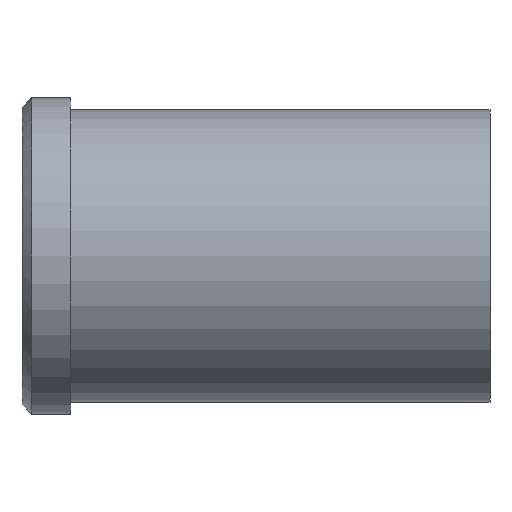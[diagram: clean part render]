
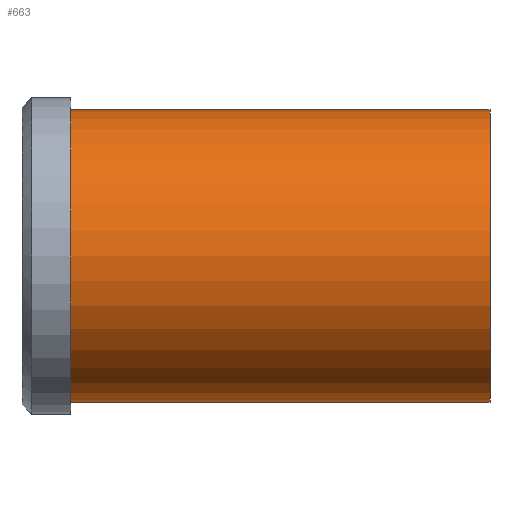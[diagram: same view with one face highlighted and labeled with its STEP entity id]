
A CAD part, front view. The second image highlights one B-rep face of the part: STEP entity #663.
In plain terms, the highlighted cylindrical face has radius 30 mm (diameter 60 mm), a partial arc.
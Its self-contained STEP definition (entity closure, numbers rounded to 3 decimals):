
#501=CARTESIAN_POINT('Vertex',(0.,0.,-30.)) ;
#506=CARTESIAN_POINT('Axis2P3D Location',(0.,0.,0.)) ;
#510=CARTESIAN_POINT('Vertex',(0.,-30.,0.)) ;
#513=CARTESIAN_POINT('Axis2P3D Location',(0.,0.,0.)) ;
#517=CARTESIAN_POINT('Vertex',(0.,0.,30.)) ;
#603=CARTESIAN_POINT('Line Origine',(86.,0.,30.)) ;
#607=CARTESIAN_POINT('Vertex',(86.,0.,30.)) ;
#621=CARTESIAN_POINT('Vertex',(86.,0.,-30.)) ;
#624=CARTESIAN_POINT('Line Origine',(86.,0.,-30.)) ;
#638=CARTESIAN_POINT('Axis2P3D Location',(86.,0.,0.)) ;
#643=CARTESIAN_POINT('Axis2P3D Location',(86.,0.,0.)) ;
#647=CARTESIAN_POINT('Vertex',(86.,-30.,0.)) ;
#650=CARTESIAN_POINT('Axis2P3D Location',(86.,0.,0.)) ;
#507=DIRECTION('Axis2P3D Direction',(1.,0.,-0.)) ;
#514=DIRECTION('Axis2P3D Direction',(1.,0.,-0.)) ;
#604=DIRECTION('Vector Direction',(-1.,0.,0.)) ;
#625=DIRECTION('Vector Direction',(-1.,0.,0.)) ;
#639=DIRECTION('Axis2P3D Direction',(-1.,-0.,-0.)) ;
#640=DIRECTION('Axis2P3D XDirection',(0.,0.,-1.)) ;
#644=DIRECTION('Axis2P3D Direction',(-1.,-0.,-0.)) ;
#651=DIRECTION('Axis2P3D Direction',(-1.,-0.,-0.)) ;
#508=AXIS2_PLACEMENT_3D('Circle Axis2P3D',#506,#507,$) ;
#515=AXIS2_PLACEMENT_3D('Circle Axis2P3D',#513,#514,$) ;
#641=AXIS2_PLACEMENT_3D('Cylinder Axis2P3D',#638,#639,#640) ;
#645=AXIS2_PLACEMENT_3D('Circle Axis2P3D',#643,#644,$) ;
#652=AXIS2_PLACEMENT_3D('Circle Axis2P3D',#650,#651,$) ;
#656=ORIENTED_EDGE('',*,*,#628,.T.) ;
#657=ORIENTED_EDGE('',*,*,#649,.F.) ;
#658=ORIENTED_EDGE('',*,*,#654,.F.) ;
#659=ORIENTED_EDGE('',*,*,#609,.T.) ;
#660=ORIENTED_EDGE('',*,*,#519,.T.) ;
#661=ORIENTED_EDGE('',*,*,#512,.T.) ;
#605=VECTOR('Line Direction',#604,1.) ;
#626=VECTOR('Line Direction',#625,1.) ;
#663=ADVANCED_FACE('353-50X96',(#662),#642,.T.) ;
#509=CIRCLE('generated circle',#508,30.) ;
#516=CIRCLE('generated circle',#515,30.) ;
#646=CIRCLE('generated circle',#645,30.) ;
#653=CIRCLE('generated circle',#652,30.) ;
#642=CYLINDRICAL_SURFACE('generated cylinder',#641,30.) ;
#512=EDGE_CURVE('',#511,#502,#509,.T.) ;
#519=EDGE_CURVE('',#518,#511,#516,.T.) ;
#609=EDGE_CURVE('',#608,#518,#606,.T.) ;
#628=EDGE_CURVE('',#502,#622,#627,.F.) ;
#649=EDGE_CURVE('',#648,#622,#646,.F.) ;
#654=EDGE_CURVE('',#608,#648,#653,.F.) ;
#655=EDGE_LOOP('',(#656,#657,#658,#659,#660,#661)) ;
#662=FACE_OUTER_BOUND('',#655,.T.) ;
#606=LINE('Line',#603,#605) ;
#627=LINE('Line',#624,#626) ;
#502=VERTEX_POINT('',#501) ;
#511=VERTEX_POINT('',#510) ;
#518=VERTEX_POINT('',#517) ;
#608=VERTEX_POINT('',#607) ;
#622=VERTEX_POINT('',#621) ;
#648=VERTEX_POINT('',#647) ;
